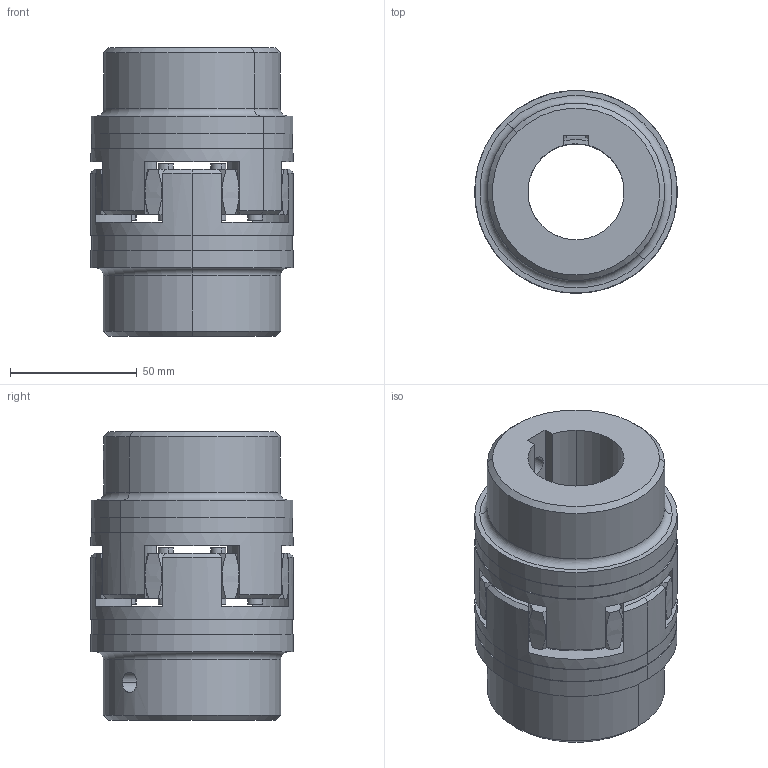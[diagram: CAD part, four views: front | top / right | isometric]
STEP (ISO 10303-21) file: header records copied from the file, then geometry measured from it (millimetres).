
FILE_DESCRIPTION (( 'STEP AP214' ), '1' );
FILE_NAME ('Po³¹czenie Rotex 38.STEP', '2026-05-26T08:07:32', ( '' ), ( '' ), 'SwSTEP 2.0', 'SolidWorks 2022', '' );
FILE_SCHEMA (( 'AUTOMOTIVE_DESIGN' ));
Length unit declared in the file: millimetre
Products named in the file (4): Rotex 38.stp; £¹cznik Rotex 38.stp; Po³¹czenie Rotex 38
Assembly tree (3 placements, depth 2):
  Po³¹czenie Rotex 38
    Rotex 38.stp
    Rotex 38.stp
    £¹cznik Rotex 38.stp
Bounding box: 80 x 80 x 114 mm (x, y, z)
Volume: 351003.8 mm3; surface area: 71753.5 mm2
Topology: 3 solids, 3 shells, 154 faces, 392 edges, 258 vertices
Faces by surface type: cylinder 70, plane 34, bspline 32, cone 14, torus 4
Entity records: 7320 total; most frequent: CARTESIAN_POINT 3566, ORIENTED_EDGE 784, DIRECTION 722, EDGE_CURVE 392, AXIS2_PLACEMENT_3D 318, VERTEX_POINT 258, CIRCLE 190, EDGE_LOOP 178
